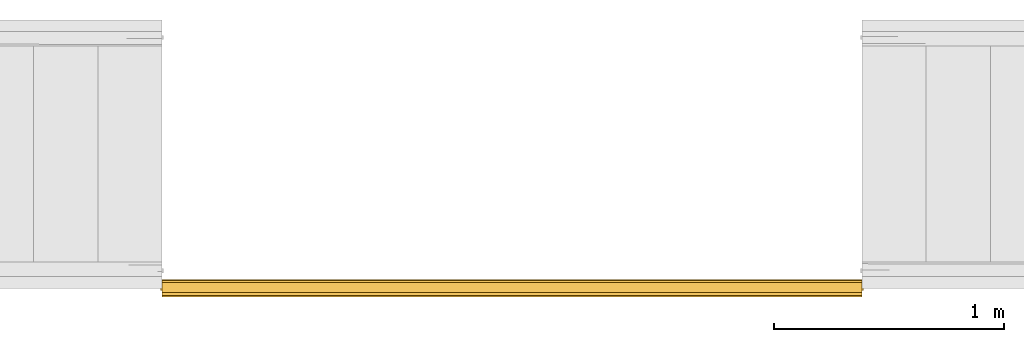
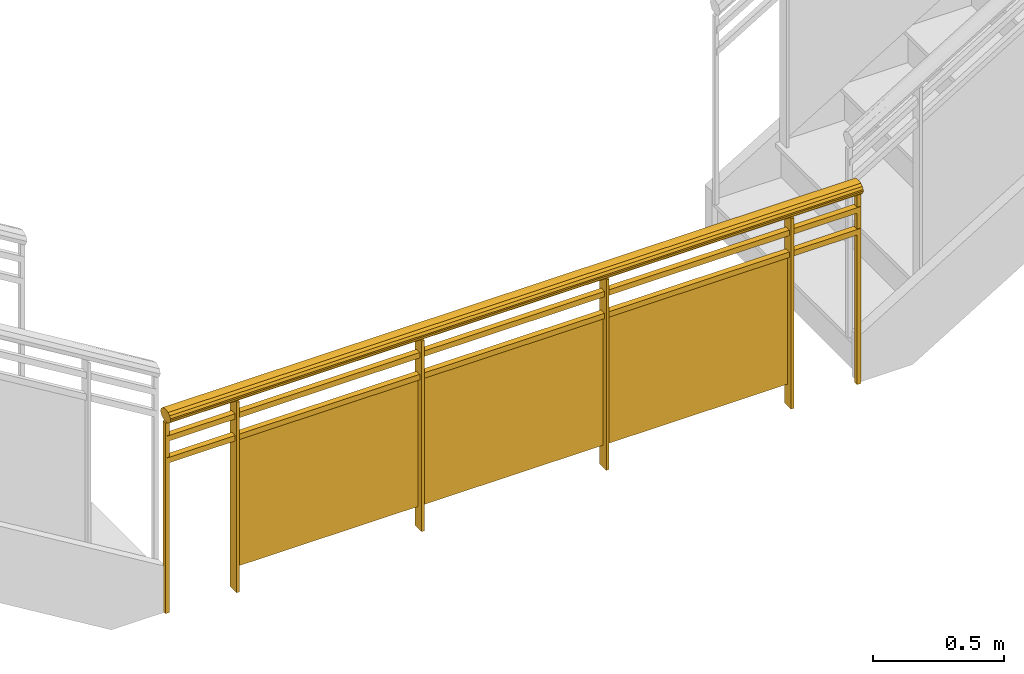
# One storey, part 2 of 4: 1 railing.
"""IFC2X3 building model written with IfcOpenShell, lengths in feet."""

from ifc_helpers import new_model, entity, si_unit, converted_unit, derived_unit, direction, frame, frame_2d, origin, origin_2d_with_axis, place, context, subcontext, project, spatial, polyline, rectangle, outline, extrude, material, material_list, element, save


model = new_model("IFC2X3")

# Units and contexts
model_context = context("Model", 3, precision=0.0001, world=origin(), true_north=direction((6.12303176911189e-17, 1.0)))
body_context = subcontext(model_context, "Body", "Model", "MODEL_VIEW")
ifc_project = project(units=[converted_unit("LENGTHUNIT", "FOOT", entity("IfcRatioMeasure", 0.3048), si_unit("LENGTHUNIT", "METRE"), dimensions=[1, 0, 0, 0, 0, 0, 0]), converted_unit("AREAUNIT", "SQUARE FOOT", entity("IfcRatioMeasure", 0.09290304), si_unit("AREAUNIT", "SQUARE_METRE"), dimensions=[2, 0, 0, 0, 0, 0, 0]), converted_unit("VOLUMEUNIT", "CUBIC FOOT", entity("IfcRatioMeasure", 0.028316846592), si_unit("VOLUMEUNIT", "CUBIC_METRE"), dimensions=[3, 0, 0, 0, 0, 0, 0]), converted_unit("PLANEANGLEUNIT", "DEGREE", entity("IfcRatioMeasure", 0.0174532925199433), si_unit("PLANEANGLEUNIT", "RADIAN"), dimensions=[0, 0, 0, 0, 0, 0, 0]), si_unit("MASSUNIT", "GRAM", prefix="KILO"), derived_unit("MASSDENSITYUNIT", [(si_unit("MASSUNIT", "GRAM", prefix="KILO"), 1), (si_unit("LENGTHUNIT", "METRE"), -3)]), si_unit("TIMEUNIT", "SECOND"), si_unit("FREQUENCYUNIT", "HERTZ"), si_unit("THERMODYNAMICTEMPERATUREUNIT", "DEGREE_CELSIUS"), derived_unit("THERMALTRANSMITTANCEUNIT", [(si_unit("MASSUNIT", "GRAM", prefix="KILO"), 1), (si_unit("THERMODYNAMICTEMPERATUREUNIT", "KELVIN"), -1), (si_unit("TIMEUNIT", "SECOND"), -3)]), derived_unit("VOLUMETRICFLOWRATEUNIT", [(si_unit("LENGTHUNIT", "METRE"), 3), (si_unit("TIMEUNIT", "SECOND"), -1)]), si_unit("ELECTRICCURRENTUNIT", "AMPERE"), si_unit("ELECTRICVOLTAGEUNIT", "VOLT"), si_unit("POWERUNIT", "WATT"), si_unit("FORCEUNIT", "NEWTON"), si_unit("ILLUMINANCEUNIT", "LUX"), si_unit("LUMINOUSFLUXUNIT", "LUMEN"), si_unit("LUMINOUSINTENSITYUNIT", "CANDELA"), derived_unit("USERDEFINED", [(si_unit("MASSUNIT", "GRAM", prefix="KILO"), -1), (si_unit("LENGTHUNIT", "METRE"), -2), (si_unit("TIMEUNIT", "SECOND"), 3), (si_unit("LUMINOUSFLUXUNIT", "LUMEN"), 1)]), derived_unit("LINEARVELOCITYUNIT", [(si_unit("LENGTHUNIT", "METRE"), 1), (si_unit("TIMEUNIT", "SECOND"), -1)]), si_unit("PRESSUREUNIT", "PASCAL"), derived_unit("USERDEFINED", [(si_unit("LENGTHUNIT", "METRE"), -2), (si_unit("MASSUNIT", "GRAM", prefix="KILO"), 1), (si_unit("TIMEUNIT", "SECOND"), -2)])], contexts=[model_context])

# Site, building, storey
site_placement = place(None, origin())
site = spatial("IfcSite", under=ifc_project, at=site_placement, Name="Default", CompositionType="ELEMENT")
building_placement = place(site_placement, origin())
building = spatial("IfcBuilding", under=site, at=building_placement, CompositionType="ELEMENT")
storey_placement = place(building_placement, frame((0.0, 0.0, 55.0)))
storey = spatial("IfcBuildingStorey", under=building, at=storey_placement, Name="L 10", CompositionType="ELEMENT", Elevation=54.9999999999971)

# Railing
ifc_material_1 = material(Name="Glass")
ifc_material_2 = material(Name="alum - color")
ifc_material_list = material_list([ifc_material_1, ifc_material_2])
railing_placement = place(storey_placement, origin())
element("IfcRailing", 1, at=railing_placement, inside=storey, material=ifc_material_list, Name="Railing:Glass Panel - Bottom Fill", ObjectType="Railing:Glass Panel - Bottom Fill", PredefinedType="NOTDEFINED", context=body_context, shape_type="SweptSolid", body=[
    extrude(rectangle(XDim=0.0416666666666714, YDim=0.166666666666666, at=frame_2d((0.0, 8.88178419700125e-16), x_axis=(1.0, 0.0))), frame((-29.991829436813, -15.3369745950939, 0.0)), (0.0, 0.0, 1.0), 2.90577041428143),
    extrude(rectangle(XDim=0.0208333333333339, YDim=2.66666666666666, at=frame_2d((-8.88178419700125e-16, -1.77635683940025e-15), x_axis=(1.0, 0.0))), frame((-31.3251627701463, -15.3259504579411, 0.333333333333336), z_axis=(0.0, 0.0, 1.0), x_axis=(0.0, -1.0, 0.0)), (0.0, 0.0, 1.0), 1.95833333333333),
    extrude(rectangle(XDim=0.0416666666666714, YDim=0.166666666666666, at=frame_2d((0.0, 8.88178419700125e-16), x_axis=(1.0, 0.0))), frame((-32.6584961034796, -15.3369745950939, 0.0)), (0.0, 0.0, 1.0), 2.90577041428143),
    extrude(rectangle(XDim=0.0208333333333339, YDim=2.66666666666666, at=frame_2d((-8.88178419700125e-16, 0.0), x_axis=(1.0, 0.0))), frame((-33.991829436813, -15.3259504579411, 0.333333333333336), z_axis=(0.0, 0.0, 1.0), x_axis=(0.0, -1.0, 0.0)), (0.0, 0.0, 1.0), 1.95833333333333),
    extrude(rectangle(XDim=0.0416666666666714, YDim=0.166666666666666, at=frame_2d((0.0, 8.88178419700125e-16), x_axis=(1.0, 0.0))), frame((-35.3251627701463, -15.3369745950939, 0.0)), (0.0, 0.0, 1.0), 2.90577041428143),
    extrude(rectangle(XDim=0.0208333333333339, YDim=2.66666666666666, at=frame_2d((-8.88178419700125e-16, 0.0), x_axis=(1.0, 0.0))), frame((-36.6584961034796, -15.3259504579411, 0.333333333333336), z_axis=(0.0, 0.0, 1.0), x_axis=(0.0, -1.0, 0.0)), (0.0, 0.0, 1.0), 1.95833333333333),
    extrude(rectangle(XDim=0.0416666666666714, YDim=0.166666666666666, at=frame_2d((0.0, 8.88178419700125e-16), x_axis=(1.0, 0.0))), frame((-37.991829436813, -15.3369745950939, 0.0)), (0.0, 0.0, 1.0), 2.90577041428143),
    extrude(rectangle(XDim=0.0625, YDim=0.0625, at=origin_2d_with_axis()), frame((-29.0022461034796, -15.3369745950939, 0.0)), (0.0, 0.0, 1.0), 2.90577041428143),
    extrude(rectangle(XDim=0.0625, YDim=0.0625, at=origin_2d_with_axis()), frame((-38.9814127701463, -15.3369745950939, 0.0)), (0.0, 0.0, 1.0), 2.90577041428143),
    extrude(rectangle(XDim=10.0, YDim=0.0833333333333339, at=frame_2d((0.0, -8.88178419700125e-16), x_axis=(1.0, 0.0))), frame((-33.991829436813, -15.3369745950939, 2.625)), (0.0, 0.0, 1.0), 0.0833333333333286),
    extrude(rectangle(XDim=10.0, YDim=0.0833333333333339, at=frame_2d((0.0, -8.88178419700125e-16), x_axis=(1.0, 0.0))), frame((-33.991829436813, -15.3369745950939, 2.29166666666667)), (0.0, 0.0, 1.0), 0.0833333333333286),
    extrude(outline(polyline([(-0.0340837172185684, -0.120263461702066), (0.00554964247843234, -0.120263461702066), (0.0442234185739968, -0.0994688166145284), (0.0752505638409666, -0.0614751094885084), (0.0932662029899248, -0.0128517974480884), (0.0951552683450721, 0.0379937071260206), (0.0805911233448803, 0.0822697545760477), (0.0520920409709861, 0.112320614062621), (0.0340837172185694, 0.120263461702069), (-0.00554964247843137, 0.120263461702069), (-0.0442234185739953, 0.0994688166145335), (-0.0752505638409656, 0.0614751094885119), (-0.0932662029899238, 0.0128517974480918), (-0.0951552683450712, -0.0379937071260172), (-0.0805911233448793, -0.0822697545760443), (-0.0520920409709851, -0.112320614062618), (-0.0340837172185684, -0.120263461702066)])), frame((-38.991829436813, -15.3369745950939, 3.0), z_axis=(1.0, 0.0, 0.0), x_axis=(0.0, 0.272669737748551, -0.962107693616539)), (0.0, 0.0, 1.0), 10.0),
])

save(model, "model.ifc")
